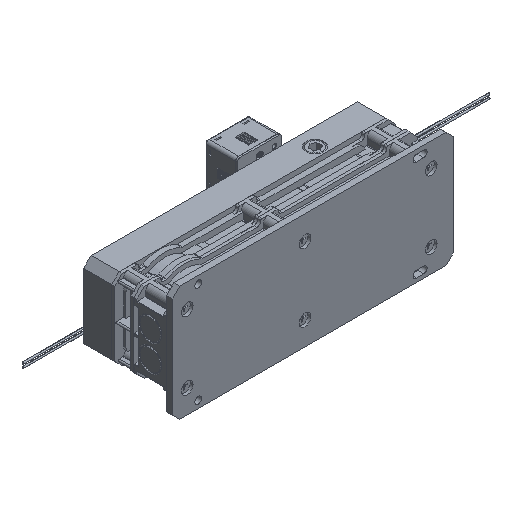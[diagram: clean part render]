
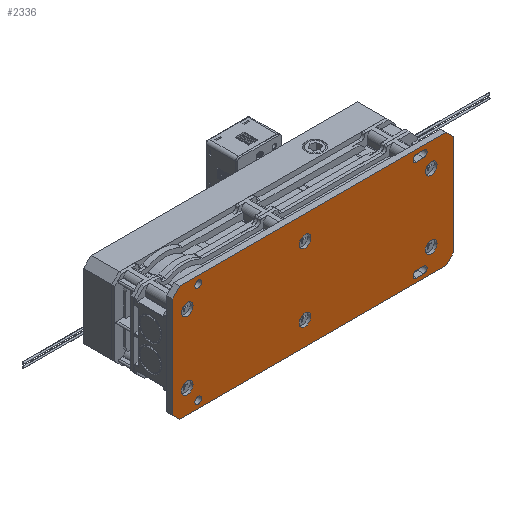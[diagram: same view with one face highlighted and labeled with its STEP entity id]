
A CAD part, isometric view. The second image highlights one B-rep face of the part: STEP entity #2336.
In plain terms, the highlighted planar face has unit normal (0, -1, 0).
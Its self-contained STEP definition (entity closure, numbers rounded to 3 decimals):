
#2336=ADVANCED_FACE('',(#5280,#5281,#5282,#5283,#5284,#5285,#5286,#5287,#5288,#5289,#5290),#5291,.F.);
#5280=FACE_OUTER_BOUND('',#9479,.T.);
#5281=FACE_BOUND('',#9480,.T.);
#5282=FACE_BOUND('',#9481,.T.);
#5283=FACE_BOUND('',#9482,.T.);
#5284=FACE_BOUND('',#9483,.T.);
#5285=FACE_BOUND('',#9484,.T.);
#5286=FACE_BOUND('',#9485,.T.);
#5287=FACE_BOUND('',#9486,.T.);
#5288=FACE_BOUND('',#9487,.T.);
#5289=FACE_BOUND('',#9488,.T.);
#5290=FACE_BOUND('',#9489,.T.);
#5291=PLANE('',#9490);
#9479=EDGE_LOOP('',(#19055,#19056,#19057,#19058,#19059,#19060,#19061,#19062));
#9480=EDGE_LOOP('',(#19063,#19064,#19065,#19066));
#9481=EDGE_LOOP('',(#19067,#19068,#19069,#19070));
#9482=EDGE_LOOP('',(#19071));
#9483=EDGE_LOOP('',(#19072));
#9484=EDGE_LOOP('',(#19073));
#9485=EDGE_LOOP('',(#19074));
#9486=EDGE_LOOP('',(#19075));
#9487=EDGE_LOOP('',(#19076));
#9488=EDGE_LOOP('',(#19077));
#9489=EDGE_LOOP('',(#19078));
#9490=AXIS2_PLACEMENT_3D('',#19079,#19080,#19081);
#19055=ORIENTED_EDGE('',*,*,#30349,.F.);
#19056=ORIENTED_EDGE('',*,*,#30525,.F.);
#19057=ORIENTED_EDGE('',*,*,#30543,.F.);
#19058=ORIENTED_EDGE('',*,*,#30442,.F.);
#19059=ORIENTED_EDGE('',*,*,#30510,.F.);
#19060=ORIENTED_EDGE('',*,*,#30493,.F.);
#19061=ORIENTED_EDGE('',*,*,#30612,.F.);
#19062=ORIENTED_EDGE('',*,*,#30595,.F.);
#19063=ORIENTED_EDGE('',*,*,#30609,.T.);
#19064=ORIENTED_EDGE('',*,*,#30530,.T.);
#19065=ORIENTED_EDGE('',*,*,#30323,.T.);
#19066=ORIENTED_EDGE('',*,*,#30611,.T.);
#19067=ORIENTED_EDGE('',*,*,#30428,.T.);
#19068=ORIENTED_EDGE('',*,*,#30518,.T.);
#19069=ORIENTED_EDGE('',*,*,#30498,.T.);
#19070=ORIENTED_EDGE('',*,*,#30627,.T.);
#19071=ORIENTED_EDGE('',*,*,#30347,.T.);
#19072=ORIENTED_EDGE('',*,*,#30622,.T.);
#19073=ORIENTED_EDGE('',*,*,#30433,.F.);
#19074=ORIENTED_EDGE('',*,*,#30626,.F.);
#19075=ORIENTED_EDGE('',*,*,#30624,.F.);
#19076=ORIENTED_EDGE('',*,*,#30603,.F.);
#19077=ORIENTED_EDGE('',*,*,#30570,.F.);
#19078=ORIENTED_EDGE('',*,*,#30544,.F.);
#19079=CARTESIAN_POINT('',(0.,0.0,0.0));
#19080=DIRECTION('',(-0.0,1.0,0.0));
#19081=DIRECTION('',(1.0,0.0,0.0));
#30323=EDGE_CURVE('',#37005,#37006,#37007,.T.);
#30347=EDGE_CURVE('',#37053,#37053,#37054,.T.);
#30349=EDGE_CURVE('',#37057,#37058,#37059,.T.);
#30428=EDGE_CURVE('',#37203,#37204,#37205,.T.);
#30433=EDGE_CURVE('',#37213,#37213,#37214,.T.);
#30442=EDGE_CURVE('',#37231,#37232,#37233,.T.);
#30493=EDGE_CURVE('',#37317,#37318,#37319,.T.);
#30498=EDGE_CURVE('',#37325,#37326,#37327,.T.);
#30510=EDGE_CURVE('',#37318,#37231,#37344,.T.);
#30518=EDGE_CURVE('',#37204,#37325,#37356,.T.);
#30525=EDGE_CURVE('',#37366,#37057,#37367,.T.);
#30530=EDGE_CURVE('',#37373,#37005,#37374,.T.);
#30543=EDGE_CURVE('',#37232,#37366,#37394,.T.);
#30544=EDGE_CURVE('',#37395,#37395,#37396,.T.);
#30570=EDGE_CURVE('',#37431,#37431,#37432,.T.);
#30595=EDGE_CURVE('',#37058,#37465,#37466,.T.);
#30603=EDGE_CURVE('',#37475,#37475,#37476,.T.);
#30609=EDGE_CURVE('',#37483,#37373,#37484,.T.);
#30611=EDGE_CURVE('',#37006,#37483,#37486,.T.);
#30612=EDGE_CURVE('',#37465,#37317,#37487,.T.);
#30622=EDGE_CURVE('',#37499,#37499,#37500,.T.);
#30624=EDGE_CURVE('',#37503,#37503,#37504,.T.);
#30626=EDGE_CURVE('',#37506,#37506,#37507,.T.);
#30627=EDGE_CURVE('',#37326,#37203,#37508,.T.);
#37005=VERTEX_POINT('',#48197);
#37006=VERTEX_POINT('',#48198);
#37007=LINE('',#48199,#48200);
#37053=VERTEX_POINT('',#48265);
#37054=CIRCLE('',#48266,2.25);
#37057=VERTEX_POINT('',#48269);
#37058=VERTEX_POINT('',#48270);
#37059=LINE('',#48271,#48272);
#37203=VERTEX_POINT('',#48482);
#37204=VERTEX_POINT('',#48483);
#37205=LINE('',#48484,#48485);
#37213=VERTEX_POINT('',#48496);
#37214=CIRCLE('',#48497,4.0);
#37231=VERTEX_POINT('',#48520);
#37232=VERTEX_POINT('',#48521);
#37233=LINE('',#48522,#48523);
#37317=VERTEX_POINT('',#48643);
#37318=VERTEX_POINT('',#48644);
#37319=LINE('',#48645,#48646);
#37325=VERTEX_POINT('',#48656);
#37326=VERTEX_POINT('',#48657);
#37327=LINE('',#48658,#48659);
#37344=LINE('',#48686,#48687);
#37356=CIRCLE('',#48706,2.25);
#37366=VERTEX_POINT('',#48722);
#37367=LINE('',#48723,#48724);
#37373=VERTEX_POINT('',#48734);
#37374=CIRCLE('',#48735,2.25);
#37394=LINE('',#48765,#48766);
#37395=VERTEX_POINT('',#48767);
#37396=CIRCLE('',#48768,4.0);
#37431=VERTEX_POINT('',#48825);
#37432=CIRCLE('',#48826,4.0);
#37465=VERTEX_POINT('',#48878);
#37466=LINE('',#48879,#48880);
#37475=VERTEX_POINT('',#48896);
#37476=CIRCLE('',#48897,4.0);
#37483=VERTEX_POINT('',#48909);
#37484=LINE('',#48910,#48911);
#37486=CIRCLE('',#48914,2.25);
#37487=LINE('',#48915,#48916);
#37499=VERTEX_POINT('',#48936);
#37500=CIRCLE('',#48937,2.25);
#37503=VERTEX_POINT('',#48940);
#37504=CIRCLE('',#48941,4.0);
#37506=VERTEX_POINT('',#48944);
#37507=CIRCLE('',#48945,4.0);
#37508=CIRCLE('',#48946,2.25);
#48197=CARTESIAN_POINT('',(132.8,0.0,-31.75));
#48198=CARTESIAN_POINT('',(137.8,0.0,-31.75));
#48199=CARTESIAN_POINT('',(132.8,0.0,-31.75));
#48200=VECTOR('',#58871,1.0);
#48265=CARTESIAN_POINT('',(-12.45,0.0,-34.0));
#48266=AXIS2_PLACEMENT_3D('',#58903,#58904,#58905);
#48269=CARTESIAN_POINT('',(-27.2,0.0,-39.0));
#48270=CARTESIAN_POINT('',(-32.2,0.0,-34.0));
#48271=CARTESIAN_POINT('',(-27.2,0.0,-39.0));
#48272=VECTOR('',#58909,1.0);
#48482=CARTESIAN_POINT('',(137.8,0.0,31.75));
#48483=CARTESIAN_POINT('',(132.8,0.0,31.75));
#48484=CARTESIAN_POINT('',(137.8,0.0,31.75));
#48485=VECTOR('',#59012,1.0);
#48496=CARTESIAN_POINT('',(-22.2,0.0,19.0));
#48497=AXIS2_PLACEMENT_3D('',#59019,#59020,#59021);
#48520=CARTESIAN_POINT('',(157.8,0.0,34.0));
#48521=CARTESIAN_POINT('',(157.8,0.0,-34.0));
#48522=CARTESIAN_POINT('',(157.8,0.0,34.0));
#48523=VECTOR('',#59034,1.0);
#48643=CARTESIAN_POINT('',(-27.2,0.0,39.0));
#48644=CARTESIAN_POINT('',(152.8,0.0,39.0));
#48645=CARTESIAN_POINT('',(-27.2,0.0,39.0));
#48646=VECTOR('',#59113,1.0);
#48656=CARTESIAN_POINT('',(132.8,0.0,36.25));
#48657=CARTESIAN_POINT('',(137.8,0.0,36.25));
#48658=CARTESIAN_POINT('',(132.8,0.0,36.25));
#48659=VECTOR('',#59118,1.0);
#48686=CARTESIAN_POINT('',(152.8,0.0,39.0));
#48687=VECTOR('',#59132,1.0);
#48706=AXIS2_PLACEMENT_3D('',#59140,#59141,#59142);
#48722=CARTESIAN_POINT('',(152.8,0.0,-39.0));
#48723=CARTESIAN_POINT('',(152.8,0.0,-39.0));
#48724=VECTOR('',#59149,1.0);
#48734=CARTESIAN_POINT('',(132.8,0.0,-36.25));
#48735=AXIS2_PLACEMENT_3D('',#59154,#59155,#59156);
#48765=CARTESIAN_POINT('',(157.8,0.0,-34.0));
#48766=VECTOR('',#59173,1.0);
#48767=CARTESIAN_POINT('',(142.8,0.0,-27.0));
#48768=AXIS2_PLACEMENT_3D('',#59174,#59175,#59176);
#48825=CARTESIAN_POINT('',(142.8,0.0,19.0));
#48826=AXIS2_PLACEMENT_3D('',#59208,#59209,#59210);
#48878=CARTESIAN_POINT('',(-32.2,0.0,34.0));
#48879=CARTESIAN_POINT('',(-32.2,0.0,-34.0));
#48880=VECTOR('',#59245,1.0);
#48896=CARTESIAN_POINT('',(57.5,0.0,-27.0));
#48897=AXIS2_PLACEMENT_3D('',#59253,#59254,#59255);
#48909=CARTESIAN_POINT('',(137.8,0.0,-36.25));
#48910=CARTESIAN_POINT('',(137.8,0.0,-36.25));
#48911=VECTOR('',#59261,1.0);
#48914=AXIS2_PLACEMENT_3D('',#59263,#59264,#59265);
#48915=CARTESIAN_POINT('',(-32.2,0.0,34.0));
#48916=VECTOR('',#59266,1.0);
#48936=CARTESIAN_POINT('',(-12.45,0.0,34.0));
#48937=AXIS2_PLACEMENT_3D('',#59278,#59279,#59280);
#48940=CARTESIAN_POINT('',(-22.2,0.0,-27.0));
#48941=AXIS2_PLACEMENT_3D('',#59284,#59285,#59286);
#48944=CARTESIAN_POINT('',(57.5,0.0,19.0));
#48945=AXIS2_PLACEMENT_3D('',#59288,#59289,#59290);
#48946=AXIS2_PLACEMENT_3D('',#59291,#59292,#59293);
#58871=DIRECTION('',(1.0,0.0,0.0));
#58903=CARTESIAN_POINT('',(-14.7,0.0,-34.0));
#58904=DIRECTION('',(-0.0,1.0,0.0));
#58905=DIRECTION('',(1.0,0.0,0.0));
#58909=DIRECTION('',(-0.707,0.0,0.707));
#59012=DIRECTION('',(-1.0,0.0,0.0));
#59019=CARTESIAN_POINT('',(-22.2,0.0,23.0));
#59020=DIRECTION('',(0.0,-1.0,0.0));
#59021=DIRECTION('',(0.0,0.0,-1.0));
#59034=DIRECTION('',(0.0,0.0,-1.0));
#59113=DIRECTION('',(1.0,0.0,0.0));
#59118=DIRECTION('',(1.0,0.0,0.0));
#59132=DIRECTION('',(0.707,0.0,-0.707));
#59140=CARTESIAN_POINT('',(132.8,0.0,34.0));
#59141=DIRECTION('',(-0.0,1.0,0.0));
#59142=DIRECTION('',(1.0,0.0,0.0));
#59149=DIRECTION('',(-1.0,0.0,0.0));
#59154=CARTESIAN_POINT('',(132.8,0.0,-34.0));
#59155=DIRECTION('',(-0.0,1.0,0.0));
#59156=DIRECTION('',(1.0,0.0,0.0));
#59173=DIRECTION('',(-0.707,0.0,-0.707));
#59174=CARTESIAN_POINT('',(142.8,0.0,-23.0));
#59175=DIRECTION('',(0.0,-1.0,0.0));
#59176=DIRECTION('',(0.0,0.0,-1.0));
#59208=CARTESIAN_POINT('',(142.8,0.0,23.0));
#59209=DIRECTION('',(0.0,-1.0,0.0));
#59210=DIRECTION('',(0.0,0.0,-1.0));
#59245=DIRECTION('',(0.0,0.0,1.0));
#59253=CARTESIAN_POINT('',(57.5,0.0,-23.0));
#59254=DIRECTION('',(0.0,-1.0,0.0));
#59255=DIRECTION('',(0.0,0.0,-1.0));
#59261=DIRECTION('',(-1.0,0.0,0.0));
#59263=CARTESIAN_POINT('',(137.8,0.0,-34.0));
#59264=DIRECTION('',(-0.0,1.0,0.0));
#59265=DIRECTION('',(1.0,0.0,0.0));
#59266=DIRECTION('',(0.707,0.0,0.707));
#59278=CARTESIAN_POINT('',(-14.7,0.0,34.0));
#59279=DIRECTION('',(-0.0,1.0,0.0));
#59280=DIRECTION('',(1.0,0.0,0.0));
#59284=CARTESIAN_POINT('',(-22.2,0.0,-23.0));
#59285=DIRECTION('',(0.0,-1.0,0.0));
#59286=DIRECTION('',(0.0,0.0,-1.0));
#59288=CARTESIAN_POINT('',(57.5,0.0,23.0));
#59289=DIRECTION('',(0.0,-1.0,0.0));
#59290=DIRECTION('',(0.0,0.0,-1.0));
#59291=CARTESIAN_POINT('',(137.8,0.0,34.0));
#59292=DIRECTION('',(-0.0,1.0,0.0));
#59293=DIRECTION('',(1.0,0.0,0.0));
